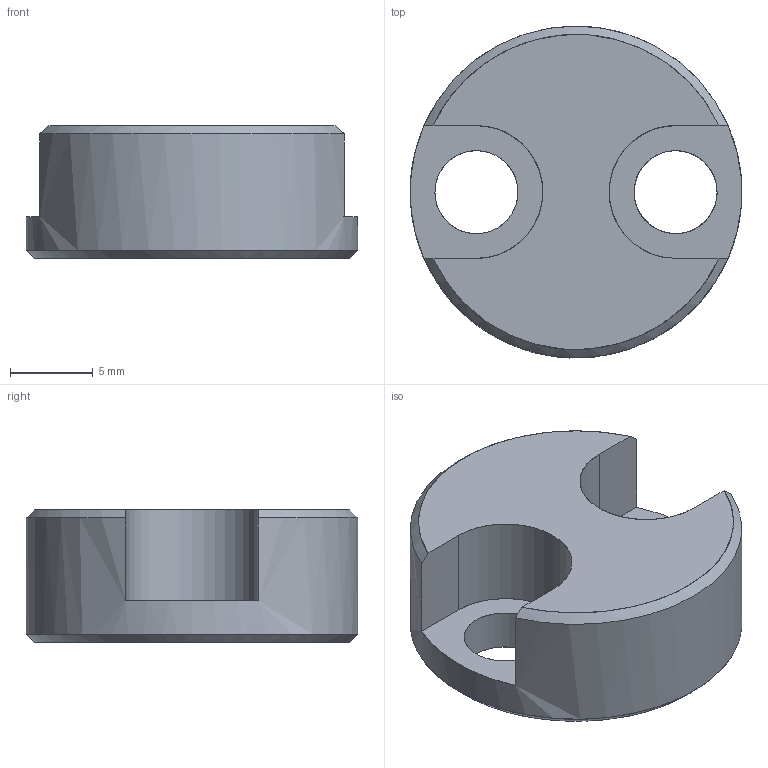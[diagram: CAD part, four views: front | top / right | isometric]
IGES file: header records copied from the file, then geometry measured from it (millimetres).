
Global section: file name: E:\UnigraphicsGraphicData\MISUMI_MOLD-PARTS\NX\3d_cphp20_02854_r00.igs; native system: NX V5.0; preprocessor: UGS NX IGES V5.0; author: MISUMI; date: 20101115.182528; units: millimetre
Bounding box: 20 x 20 x 8 mm (x, y, z)
Surface area: 1215.5 mm2 (no closed solid volume)
Topology: 0 solids, 0 shells, 16 faces, 138 edges, 135 vertices
Faces by surface type: bspline 16
